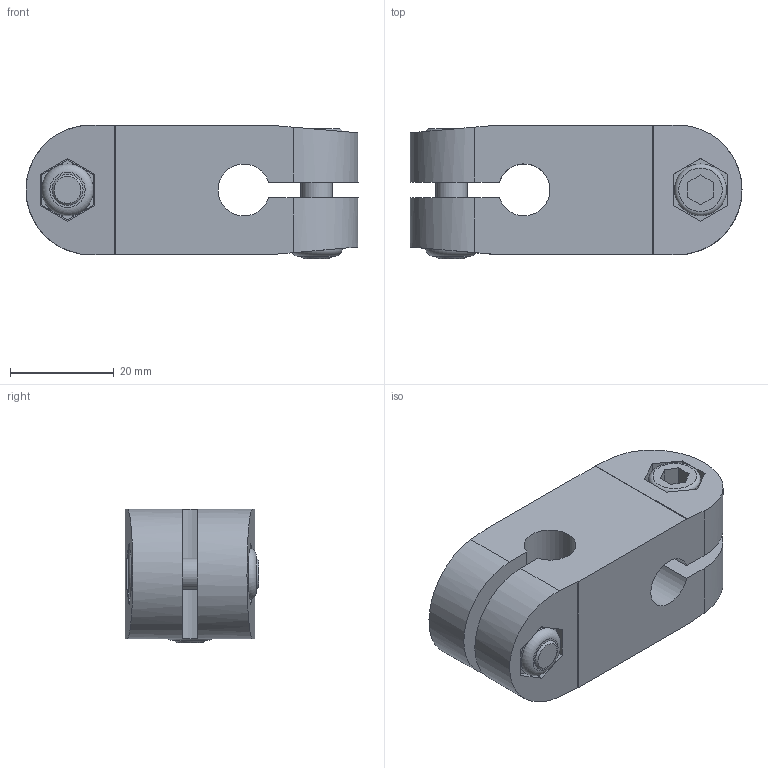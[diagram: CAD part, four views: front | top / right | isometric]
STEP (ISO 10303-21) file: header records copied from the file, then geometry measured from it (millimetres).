
FILE_DESCRIPTION( ( 'STEP AP203' ), '1' );
FILE_NAME( 'C:/Temp/Ganter_Step_05_03_2020/data/3_7/131/gn_131_1_al/Two-way connector clamp GN 131-B10-B10-2-BL.stp', '2020-03-12T14:16:03', ( 'License CC BY-ND 4.0' ), ( 'CADENAS' ), ' ', 'PARTsolutions', ' ' );
FILE_SCHEMA( ( 'CONFIG_CONTROL_DESIGN' ) );
Length unit declared in the file: millimetre
Products named in the file (1): _Two-way connector clamp GN 131-B10-B10-2-BL
Bounding box: 64 x 25.8 x 25.8 mm (x, y, z)
Volume: 29339.8 mm3; surface area: 11395.9 mm2
Topology: 1 solids, 1 shells, 116 faces, 278 edges, 180 vertices
Faces by surface type: plane 88, cylinder 22, torus 4, cone 2
Full cylindrical faces by diameter (mm): 6 x4, 6.5 x4, 10 x4
Entity records: 3260 total; most frequent: DIRECTION 550, CARTESIAN_POINT 549, ORIENTED_EDGE 512, EDGE_CURVE 256, LINE 196, VECTOR 196, AXIS2_PLACEMENT_3D 177, VERTEX_POINT 176
